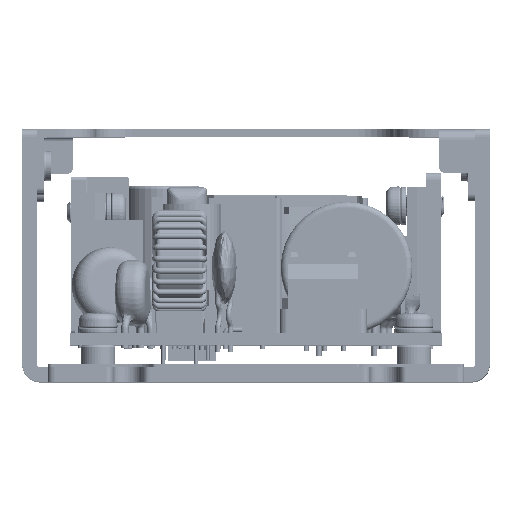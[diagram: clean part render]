
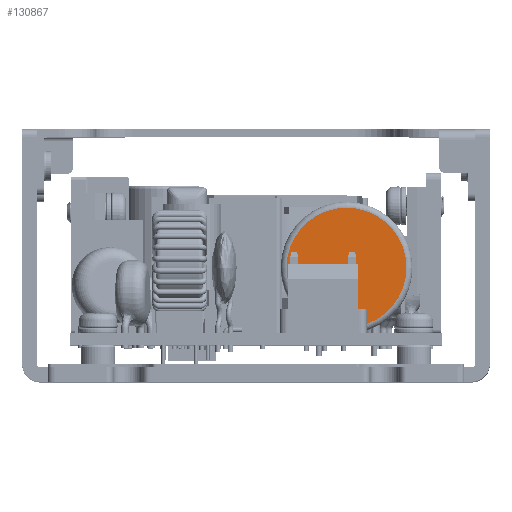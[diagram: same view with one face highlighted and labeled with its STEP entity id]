
A CAD part, top view. The second image highlights one B-rep face of the part: STEP entity #130867.
In plain terms, the highlighted planar face has unit normal (0, 0, 1).
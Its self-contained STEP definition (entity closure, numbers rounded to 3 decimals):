
#9879 = DIRECTION ( 'NONE',  ( 0., 0., -1. ) ) ;
#14284 = DIRECTION ( 'NONE',  ( 0., 0., -1. ) ) ;
#15454 = CIRCLE ( 'NONE', #99248, 8.2 ) ;
#28840 = EDGE_CURVE ( 'NONE', #38326, #144453, #100258, .T. ) ;
#33111 = ORIENTED_EDGE ( 'NONE', *, *, #138004, .F. ) ;
#35341 = EDGE_LOOP ( 'NONE', ( #131140, #33111 ) ) ;
#36736 = FACE_OUTER_BOUND ( 'NONE', #35341, .T. ) ;
#38326 = VERTEX_POINT ( 'NONE', #140807 ) ;
#40650 = DIRECTION ( 'NONE',  ( 0., 0., -1. ) ) ;
#54723 = AXIS2_PLACEMENT_3D ( 'NONE', #143371, #40650, #86404 ) ;
#55571 = DIRECTION ( 'NONE',  ( -1., 0., 0. ) ) ;
#59982 = DIRECTION ( 'NONE',  ( -1., 0., 0. ) ) ;
#71275 = PLANE ( 'NONE',  #75651 ) ;
#75651 = AXIS2_PLACEMENT_3D ( 'NONE', #117031, #14284, #59982 ) ;
#86404 = DIRECTION ( 'NONE',  ( -1., 0., 0. ) ) ;
#99248 = AXIS2_PLACEMENT_3D ( 'NONE', #112616, #9879, #55571 ) ;
#100258 = CIRCLE ( 'NONE', #54723, 8.2 ) ;
#112616 = CARTESIAN_POINT ( 'NONE',  ( 14.586, -3.777, 27.31 ) ) ;
#117031 = CARTESIAN_POINT ( 'NONE',  ( 22.786, -3.777, 27.31 ) ) ;
#123868 = CARTESIAN_POINT ( 'NONE',  ( 22.786, -3.777, 27.31 ) ) ;
#130867 = ADVANCED_FACE ( 'NONE', ( #36736 ), #71275, .F. ) ;
#131140 = ORIENTED_EDGE ( 'NONE', *, *, #28840, .F. ) ;
#138004 = EDGE_CURVE ( 'NONE', #144453, #38326, #15454, .T. ) ;
#140807 = CARTESIAN_POINT ( 'NONE',  ( 6.386, -3.777, 27.31 ) ) ;
#143371 = CARTESIAN_POINT ( 'NONE',  ( 14.586, -3.777, 27.31 ) ) ;
#144453 = VERTEX_POINT ( 'NONE', #123868 ) ;
